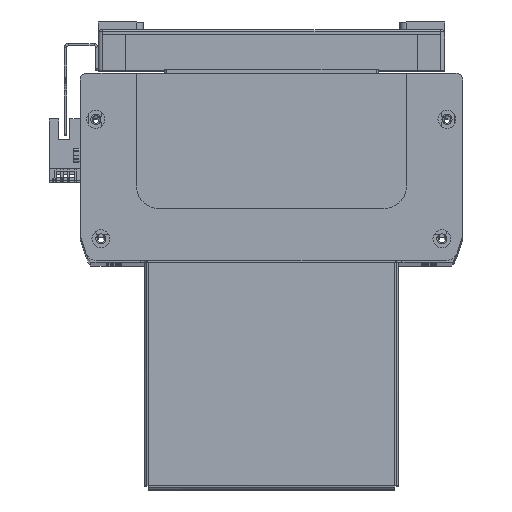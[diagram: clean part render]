
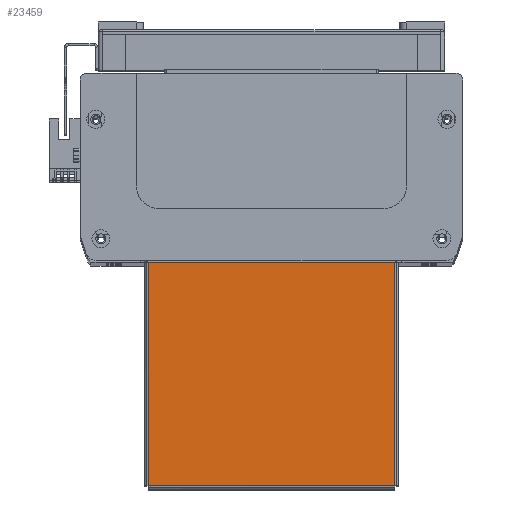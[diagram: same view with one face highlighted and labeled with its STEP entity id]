
A CAD part, top view. The second image highlights one B-rep face of the part: STEP entity #23459.
In plain terms, the highlighted planar face has unit normal (0, 0, 1).
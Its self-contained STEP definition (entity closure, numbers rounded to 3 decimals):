
#8362 = CARTESIAN_POINT ( 'NONE',  ( 54.763, 50., 0. ) ) ;
#8382 = CARTESIAN_POINT ( 'NONE',  ( -54.763, -49.263, 0. ) ) ;
#8389 = CARTESIAN_POINT ( 'NONE',  ( -54.763, 50., 0. ) ) ;
#8415 = CARTESIAN_POINT ( 'NONE',  ( 54.763, -49.263, 0. ) ) ;
#11782 = FACE_OUTER_BOUND ( 'NONE', #26946, .T. ) ;
#13119 = AXIS2_PLACEMENT_3D ( 'NONE', #43470, #43487, #43495 ) ;
#14947 = CARTESIAN_POINT ( 'NONE',  ( -55.5, 50., 0. ) ) ;
#14967 = DIRECTION ( 'NONE',  ( -1., 0., 0. ) ) ;
#15876 = EDGE_CURVE ( 'NONE', #49729, #49765, #17266, .T. ) ;
#15923 = EDGE_CURVE ( 'NONE', #49789, #49729, #17345, .T. ) ;
#15926 = EDGE_CURVE ( 'NONE', #49765, #49671, #17382, .T. ) ;
#16130 = EDGE_CURVE ( 'NONE', #49671, #49789, #17527, .T. ) ;
#17253 = VECTOR ( 'NONE', #23186, 1000. ) ;
#17266 = LINE ( 'NONE', #23204, #17253 ) ;
#17316 = VECTOR ( 'NONE', #23250, 1000. ) ;
#17345 = LINE ( 'NONE', #23255, #17316 ) ;
#17382 = LINE ( 'NONE', #23253, #17394 ) ;
#17394 = VECTOR ( 'NONE', #23228, 1000. ) ;
#17527 = LINE ( 'NONE', #14947, #17546 ) ;
#17546 = VECTOR ( 'NONE', #14967, 1000. ) ;
#23186 = DIRECTION ( 'NONE',  ( 1., 0., 0. ) ) ;
#23204 = CARTESIAN_POINT ( 'NONE',  ( -54.793, -49.263, 0. ) ) ;
#23228 = DIRECTION ( 'NONE',  ( 0., 1., 0. ) ) ;
#23250 = DIRECTION ( 'NONE',  ( 0., -1., 0. ) ) ;
#23253 = CARTESIAN_POINT ( 'NONE',  ( 54.763, -49.293, 0. ) ) ;
#23255 = CARTESIAN_POINT ( 'NONE',  ( -54.763, 50., 0. ) ) ;
#23459 = ADVANCED_FACE ( 'NONE', ( #11782 ), #43552, .T. ) ;
#25158 = ORIENTED_EDGE ( 'NONE', *, *, #16130, .T. ) ;
#25206 = ORIENTED_EDGE ( 'NONE', *, *, #15876, .T. ) ;
#25215 = ORIENTED_EDGE ( 'NONE', *, *, #15923, .T. ) ;
#25277 = ORIENTED_EDGE ( 'NONE', *, *, #15926, .T. ) ;
#26946 = EDGE_LOOP ( 'NONE', ( #25215, #25206, #25277, #25158 ) ) ;
#43470 = CARTESIAN_POINT ( 'NONE',  ( 0., 0., 0. ) ) ;
#43487 = DIRECTION ( 'NONE',  ( 0., 0., 1. ) ) ;
#43495 = DIRECTION ( 'NONE',  ( 1., 0., 0. ) ) ;
#43552 = PLANE ( 'NONE',  #13119 ) ;
#49671 = VERTEX_POINT ( 'NONE', #8362 ) ;
#49729 = VERTEX_POINT ( 'NONE', #8382 ) ;
#49765 = VERTEX_POINT ( 'NONE', #8415 ) ;
#49789 = VERTEX_POINT ( 'NONE', #8389 ) ;
